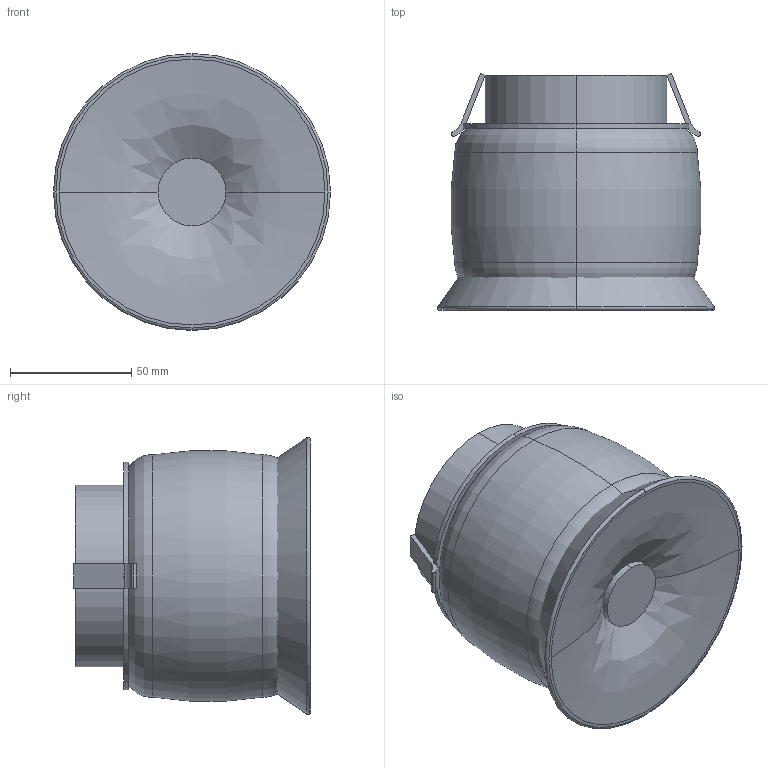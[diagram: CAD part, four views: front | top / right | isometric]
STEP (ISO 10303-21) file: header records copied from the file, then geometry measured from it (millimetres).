
FILE_DESCRIPTION (( 'STEP AP214' ), '1' );
FILE_NAME ('HARG.STEP', '2025-09-17T15:04:13', ( '' ), ( '' ), 'SwSTEP 2.0', 'SolidWorks 2018', '' );
FILE_SCHEMA (( 'AUTOMOTIVE_DESIGN' ));
Length unit declared in the file: millimetre
Products named in the file (2): HARG
Assembly tree (1 placements, depth 2):
  HARG
    HARG
Bounding box: 114.21 x 97.73 x 114.21 mm (x, y, z)
Volume: 418845 mm3; surface area: 109404.6 mm2
Topology: 7 solids, 7 shells, 71 faces, 146 edges, 92 vertices
Faces by surface type: cylinder 24, plane 23, torus 20, bspline 2, cone 2
Entity records: 2068 total; most frequent: DIRECTION 390, CARTESIAN_POINT 349, ORIENTED_EDGE 292, AXIS2_PLACEMENT_3D 173, EDGE_CURVE 146, CIRCLE 100, VERTEX_POINT 92, EDGE_LOOP 80
